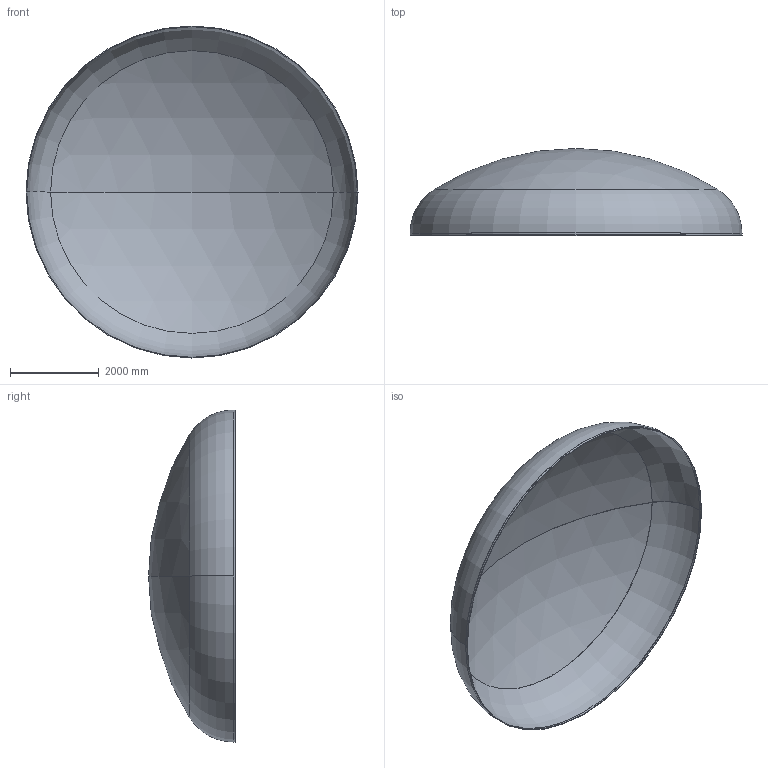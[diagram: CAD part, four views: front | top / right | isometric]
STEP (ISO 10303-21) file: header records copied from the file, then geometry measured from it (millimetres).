
FILE_DESCRIPTION (( 'STEP AP203' ), '1' );
FILE_NAME ('DIN 28013 Korbbogenform_-_Boden DIN 28013 - 7500 x 45 - I - s=15.step', '2016-07-04T10:51:40', ( '' ), ( '' ), 'SwSTEP 2.0', 'SolidWorks 2013', '' );
FILE_SCHEMA (( 'CONFIG_CONTROL_DESIGN' ));
Length unit declared in the file: millimetre
Products named in the file (1): DIN 28013 Korbbogenform_-_Boden DIN 28013 - 7500 x 45 - I - s=15
Bounding box: 7500 x 1959.07 x 7500 mm (x, y, z)
Volume: 931334505.4 mm3; surface area: 124531076.2 mm2
Topology: 1 solids, 1 shells, 13 faces, 24 edges, 14 vertices
Faces by surface type: torus 4, cylinder 4, sphere 4, plane 1
Entity records: 407 total; most frequent: DIRECTION 72, CARTESIAN_POINT 52, ORIENTED_EDGE 48, AXIS2_PLACEMENT_3D 34, EDGE_CURVE 24, CIRCLE 20, VERTEX_POINT 14, EDGE_LOOP 14
